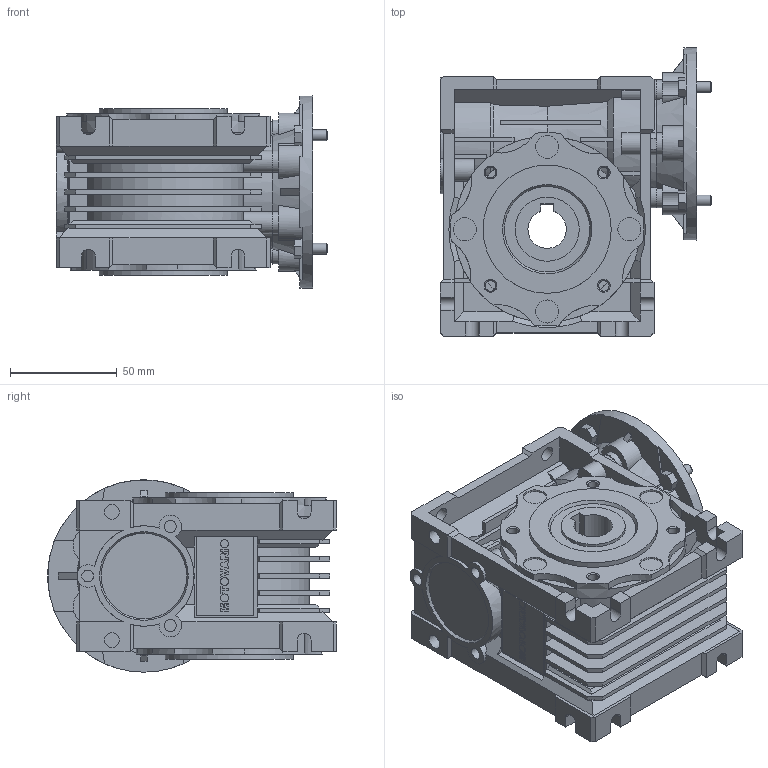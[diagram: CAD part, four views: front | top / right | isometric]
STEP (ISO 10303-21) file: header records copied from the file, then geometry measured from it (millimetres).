
FILE_DESCRIPTION(/* description */ ('STEP AP242','CAx-IF Rec.Pracs.---Representation and Presentation of Product Manufacturing Information (PMI)---4.0---2014-10-13','CAx-IF Rec.Pracs.---3D Tessellated Geometry---0.4---2014-09-14','2;1'),/* implementation_level */ '2;1');
FILE_NAME(/* name */ 'NMRV0401271811100300NO---_---------------',/* time_stamp */ '2025-10-07T13:58:35+02:00',/* author */ ('License CC BY-ND 4.0'),/* organization */ ('CADENAS'),/* preprocessor_version */ 'ST-DEVELOPER v19.3',/* originating_system */ 'PARTsolutions',/* authorisation */ ' ');
FILE_SCHEMA (('AP242_MANAGED_MODEL_BASED_3D_ENGINEERING_MIM_LF { 1 0 10303 442 1 1 4 }'));
Length unit declared in the file: millimetre
Products named in the file (5): NMRV0401271811100300NO---(---------------); Gear unit 40; 040-18 (78)alc-n; VB 040-11 (11); 40-63 B14
Assembly tree (4 placements, depth 2):
  NMRV0401271811100300NO---(---------------)
    Gear unit 40
    040-18 (78)alc-n
    VB 040-11 (11)
    40-63 B14
Bounding box: 127 x 135 x 90 mm (x, y, z)
Volume: 666710 mm3; surface area: 160833.1 mm2
Topology: 4 solids, 4 shells, 883 faces, 2431 edges, 1588 vertices
Faces by surface type: plane 608, cylinder 203, cone 70, torus 2
Full cylindrical faces by diameter (mm): 4.917 x8, 5 x4, 5.55 x3, 6.05 x4, 7 x6, 10 x6, 10.8 x4, 16 x1, 23 x2, 28 x1, 30 x2, 35 x1, 36 x1, 40 x1, 47 x1, 60 x2, 75 x1, 90 x1
Entity records: 33858 total; most frequent: CARTESIAN_POINT 5482, ORIENTED_EDGE 4666, DIRECTION 4552, EDGE_CURVE 2333, VERTEX_POINT 1564, AXIS2_PLACEMENT_3D 1547, LINE 1458, VECTOR 1458
